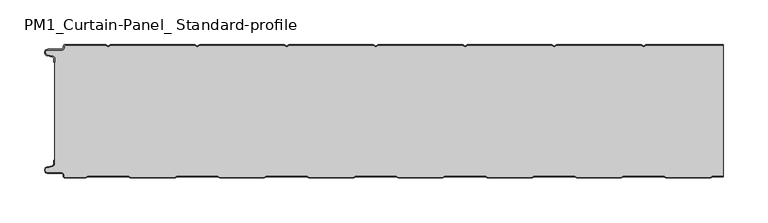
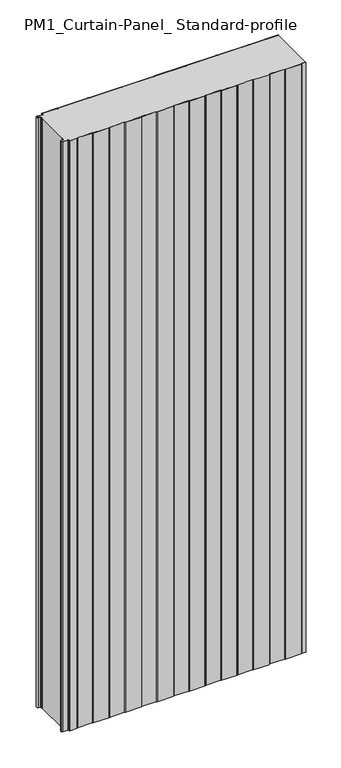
"""IFC4 building model written with IfcOpenShell, lengths in millimetres: plate geometry, PM1_Curtain-Panel_ Standard-profile : ACH_PM1_Acoustic-Sectioning-Panel_150M."""

from ifc_helpers import new_model, si_unit, point, frame_2d, origin, origin_with_axes, place, context, project, spatial, polyline, circle_curve, trimmed, segment, composite_curve, outline, extrude, source, transform, mapped, element, save


def pm1_curtain_panel_standard_profile_565afd56(model_context):
    return source(origin(), model_context, "Body", "SweptSolid", [
        extrude(outline(composite_curve([segment(trimmed(circle_curve(frame_2d((-377.0119739, -15.878557)), 2.0), [point((-375.0119739, -15.878557))], [point((-376.5620718, -13.9298169))], True, "CARTESIAN"), True, "CONTINUOUS"), segment(polyline([(-376.5620718, -13.9298169), (-382.7217978, -12.507732)]), True, "CONTINUOUS"), segment(trimmed(circle_curve(frame_2d((-381.9119739, -9.0)), 3.6), [point((-382.7217978, -12.507732))], [point((-381.9119739, -5.4))], False, "CARTESIAN"), True, "CONTINUOUS"), segment(polyline([(-381.9119739, -5.4), (-366.4119739, -5.4)]), True, "CONTINUOUS"), segment(trimmed(circle_curve(frame_2d((-366.4119739, -3.4)), 2.0), [point((-366.4119739, -5.4))], [point((-364.4119739, -3.4))], True, "CARTESIAN"), True, "CONTINUOUS"), segment(polyline([(-364.4119739, -3.4), (-364.4119739, -2.0)]), True, "CONTINUOUS"), segment(trimmed(circle_curve(frame_2d((-362.4119739, -2.0)), 2.0), [point((-364.4119739, -2.0))], [point((-362.4119739, 0.0))], False, "CARTESIAN"), True, "CONTINUOUS"), segment(polyline([(-362.4119739, 0.0), (-317.1119734, 0.0), (-314.4119739, -1.5588455), (-311.7119745, 0.0), (-217.1119734, 0.0), (-214.4119739, -1.5588455), (-211.7119745, 0.0), (-117.1119734, 0.0), (-114.4119739, -1.5588455), (-111.7119745, 0.0), (-17.1119734, 0.0), (-14.4119739, -1.5588455), (-11.7119745, 0.0), (82.8880266, 0.0), (85.5880261, -1.5588455), (88.2880255, 0.0), (182.8880266, 0.0), (185.5880261, -1.5588455), (188.2880255, 0.0), (282.8880266, 0.0), (285.5880261, -1.5588455), (288.2880255, 0.0), (375.0119739, 0.0), (375.0119739, -0.8), (288.5023849, -0.8), (285.5880261, -2.482606), (282.6736672, -0.8), (188.5023849, -0.8), (185.5880261, -2.482606), (182.6736672, -0.8), (88.5023849, -0.8), (85.5880261, -2.482606), (82.6736672, -0.8), (-11.4976151, -0.8), (-14.4119739, -2.482606), (-17.3263328, -0.8), (-111.4976151, -0.8), (-114.4119739, -2.482606), (-117.3263328, -0.8), (-211.4976151, -0.8), (-214.4119739, -2.482606), (-217.3263328, -0.8), (-311.4976151, -0.8), (-314.4119739, -2.482606), (-317.3263328, -0.8), (-362.4119739, -0.8)]), True, "CONTINUOUS"), segment(trimmed(circle_curve(frame_2d((-362.4119739, -2.0)), 1.2), [point((-362.4119739, -0.8))], [point((-363.6119739, -2.0))], True, "CARTESIAN"), True, "CONTINUOUS"), segment(polyline([(-363.6119739, -2.0), (-363.6119739, -3.4)]), True, "CONTINUOUS"), segment(trimmed(circle_curve(frame_2d((-366.4119739, -3.4)), 2.8), [point((-363.6119739, -3.4))], [point((-366.4119739, -6.2))], False, "CARTESIAN"), True, "CONTINUOUS"), segment(polyline([(-366.4119739, -6.2), (-381.9119739, -6.2)]), True, "CONTINUOUS"), segment(trimmed(circle_curve(frame_2d((-381.9119739, -9.0)), 2.8), [point((-381.9119739, -6.2))], [point((-382.541837, -11.7282362))], True, "CARTESIAN"), True, "CONTINUOUS"), segment(polyline([(-382.541837, -11.7282362), (-376.3821109, -13.150321)]), True, "CONTINUOUS"), segment(trimmed(circle_curve(frame_2d((-377.0119739, -15.878557)), 2.8), [point((-376.3821109, -13.150321))], [point((-374.2119739, -15.878557))], False, "CARTESIAN"), True, "CONTINUOUS"), segment(polyline([(-374.2119739, -15.878557), (-374.2119739, -20.0), (-375.0119739, -20.0), (-375.0119739, -15.878557)]), True, "CONTINUOUS")], self_intersect=False)), origin_with_axes(), (0.0, 0.0, 1.0), 1945.7507136),
        extrude(outline(composite_curve([segment(polyline([(-374.2119739, -134.121443), (-374.2119739, -15.8785573)]), True, "CONTINUOUS"), segment(trimmed(circle_curve(frame_2d((-377.0119739, -15.8785573)), 2.8), [point((-374.2119739, -15.8785573))], [point((-376.3821109, -13.1503212))], True, "CARTESIAN"), True, "CONTINUOUS"), segment(polyline([(-376.3821109, -13.1503212), (-382.541837, -11.7282362)]), True, "CONTINUOUS"), segment(trimmed(circle_curve(frame_2d((-381.911974, -9.0)), 2.8), [point((-382.541837, -11.7282362))], [point((-381.911974, -6.2))], False, "CARTESIAN"), True, "CONTINUOUS"), segment(polyline([(-381.911974, -6.2), (-366.411974, -6.2)]), True, "CONTINUOUS"), segment(trimmed(circle_curve(frame_2d((-366.411974, -3.4)), 2.8), [point((-366.411974, -6.2))], [point((-363.611974, -3.4))], True, "CARTESIAN"), True, "CONTINUOUS"), segment(polyline([(-363.611974, -3.4), (-363.611974, -2.0)]), True, "CONTINUOUS"), segment(trimmed(circle_curve(frame_2d((-362.411974, -2.0)), 1.2), [point((-363.611974, -2.0))], [point((-362.411974, -0.8))], False, "CARTESIAN"), True, "CONTINUOUS"), segment(polyline([(-362.411974, -0.8), (-317.3263329, -0.8), (-314.411974, -2.482606), (-311.4976152, -0.8), (-217.3263329, -0.8), (-214.411974, -2.482606), (-211.4976152, -0.8), (-117.3263329, -0.8), (-114.411974, -2.482606), (-111.4976152, -0.8), (-17.3263329, -0.8), (-14.411974, -2.482606), (-11.4976152, -0.8), (82.6736671, -0.8), (85.588026, -2.482606), (88.5023848, -0.8), (182.6736671, -0.8), (185.588026, -2.482606), (188.5023848, -0.8), (282.6736671, -0.8), (285.588026, -2.482606), (288.5023848, -0.8), (375.0119739, -0.8), (375.0119739, -147.7), (362.9717445, -147.7), (360.3736669, -149.2), (310.7985382, -149.2), (308.2004606, -147.7), (262.9717445, -147.7), (260.3736669, -149.2), (210.7985382, -149.2), (208.2004606, -147.7), (162.9717445, -147.7), (160.3736669, -149.2), (110.7985382, -149.2), (108.2004606, -147.7), (62.9717445, -147.7), (60.3736669, -149.2), (10.7985382, -149.2), (8.2004606, -147.7), (-37.0282555, -147.7), (-39.6263331, -149.2), (-89.2014618, -149.2), (-91.7995394, -147.7), (-137.0282555, -147.7), (-139.6263331, -149.2), (-189.2014618, -149.2), (-191.7995394, -147.7), (-237.0282555, -147.7), (-239.6263331, -149.2), (-289.2014618, -149.2), (-291.7995394, -147.7), (-337.0282555, -147.7), (-339.6263331, -149.2), (-362.4119739, -149.2)]), True, "CONTINUOUS"), segment(trimmed(circle_curve(frame_2d((-362.4119739, -148.0)), 1.2), [point((-362.4119739, -149.2))], [point((-363.6119739, -148.0))], False, "CARTESIAN"), True, "CONTINUOUS"), segment(polyline([(-363.6119739, -148.0), (-363.6119739, -146.5999998)]), True, "CONTINUOUS"), segment(trimmed(circle_curve(frame_2d((-366.4119739, -146.5999998)), 2.8), [point((-363.6119739, -146.5999998))], [point((-366.4119739, -143.7999998))], True, "CARTESIAN"), True, "CONTINUOUS"), segment(polyline([(-366.4119739, -143.7999998), (-381.9119739, -143.7999998)]), True, "CONTINUOUS"), segment(trimmed(circle_curve(frame_2d((-381.9119739, -141.0)), 2.7999998), [point((-381.9119739, -143.7999998))], [point((-382.5418369, -138.271764))], False, "CARTESIAN"), True, "CONTINUOUS"), segment(polyline([(-382.5418369, -138.271764), (-376.3821109, -136.8496792)]), True, "CONTINUOUS"), segment(trimmed(circle_curve(frame_2d((-377.0119739, -134.121443)), 2.8), [point((-376.3821109, -136.8496792))], [point((-374.2119739, -134.121443))], True, "CARTESIAN"), True, "CONTINUOUS")], self_intersect=False)), origin_with_axes(), (0.0, 0.0, 1.0), 1945.7507136),
        extrude(outline(composite_curve([segment(trimmed(circle_curve(frame_2d((-362.4119739, -148.0)), 2.0), [point((-362.4119739, -150.0))], [point((-364.4119739, -148.0))], False, "CARTESIAN"), True, "CONTINUOUS"), segment(polyline([(-364.4119739, -148.0), (-364.4119739, -146.6)]), True, "CONTINUOUS"), segment(trimmed(circle_curve(frame_2d((-366.4119739, -146.6)), 2.0), [point((-364.4119739, -146.6))], [point((-366.4119739, -144.6))], True, "CARTESIAN"), True, "CONTINUOUS"), segment(polyline([(-366.4119739, -144.6), (-381.9119739, -144.6)]), True, "CONTINUOUS"), segment(trimmed(circle_curve(frame_2d((-381.9119739, -141.0)), 3.6), [point((-381.9119739, -144.6))], [point((-382.7217979, -137.4922678))], False, "CARTESIAN"), True, "CONTINUOUS"), segment(polyline([(-382.7217979, -137.4922678), (-376.5620718, -136.070183)]), True, "CONTINUOUS"), segment(trimmed(circle_curve(frame_2d((-377.0119739, -134.121443)), 2.0), [point((-376.5620718, -136.070183))], [point((-375.0119739, -134.121443))], True, "CARTESIAN"), True, "CONTINUOUS"), segment(polyline([(-375.0119739, -134.121443), (-375.0119739, -130.0), (-374.2119739, -130.0), (-374.2119739, -134.121443)]), True, "CONTINUOUS"), segment(trimmed(circle_curve(frame_2d((-377.0119739, -134.121443)), 2.8), [point((-374.2119739, -134.121443))], [point((-376.3821109, -136.8496792))], False, "CARTESIAN"), True, "CONTINUOUS"), segment(polyline([(-376.3821109, -136.8496792), (-382.5418369, -138.271764)]), True, "CONTINUOUS"), segment(trimmed(circle_curve(frame_2d((-381.9119739, -141.0)), 2.8), [point((-382.5418369, -138.271764))], [point((-381.9119739, -143.8))], True, "CARTESIAN"), True, "CONTINUOUS"), segment(polyline([(-381.9119739, -143.8), (-366.4119739, -143.8)]), True, "CONTINUOUS"), segment(trimmed(circle_curve(frame_2d((-366.4119739, -146.6)), 2.8), [point((-366.4119739, -143.8))], [point((-363.6119739, -146.6))], False, "CARTESIAN"), True, "CONTINUOUS"), segment(polyline([(-363.6119739, -146.6), (-363.6119739, -148.0)]), True, "CONTINUOUS"), segment(trimmed(circle_curve(frame_2d((-362.4119739, -148.0)), 1.2), [point((-363.6119739, -148.0))], [point((-362.4119739, -149.2))], True, "CARTESIAN"), True, "CONTINUOUS"), segment(polyline([(-362.4119739, -149.2), (-339.6263331, -149.2), (-337.0282555, -147.7), (-291.7995394, -147.7), (-289.2014618, -149.2), (-239.6263331, -149.2), (-237.0282555, -147.7), (-191.7995394, -147.7), (-189.2014618, -149.2), (-139.6263331, -149.2), (-137.0282555, -147.7), (-91.7995394, -147.7), (-89.2014618, -149.2), (-39.6263331, -149.2), (-37.0282555, -147.7), (8.2004606, -147.7), (10.7985382, -149.2), (60.3736669, -149.2), (62.9717445, -147.7), (108.2004606, -147.7), (110.7985382, -149.2), (160.3736669, -149.2), (162.9717445, -147.7), (208.2004606, -147.7), (210.7985382, -149.2), (260.3736669, -149.2), (262.9717445, -147.7), (308.2004606, -147.7), (310.7985382, -149.2), (360.3736669, -149.2), (362.9717445, -147.7), (375.0119739, -147.7), (375.0119739, -148.5), (363.1861037, -148.5), (360.5880261, -150.0), (310.584179, -150.0), (307.9861014, -148.5), (263.1861037, -148.5), (260.5880261, -150.0), (210.584179, -150.0), (207.9861014, -148.5), (163.1861037, -148.5), (160.5880261, -150.0), (110.584179, -150.0), (107.9861014, -148.5), (63.1861037, -148.5), (60.5880261, -150.0), (10.584179, -150.0), (7.9861014, -148.5), (-36.8138963, -148.5), (-39.4119739, -150.0), (-89.415821, -150.0), (-92.0138986, -148.5), (-136.8138963, -148.5), (-139.4119739, -150.0), (-189.415821, -150.0), (-192.0138986, -148.5), (-236.8138963, -148.5), (-239.4119739, -150.0), (-289.415821, -150.0), (-292.0138986, -148.5), (-336.8138963, -148.5), (-339.4119739, -150.0), (-362.4119739, -150.0)]), True, "CONTINUOUS")], self_intersect=False)), origin_with_axes(), (0.0, 0.0, 1.0), 1945.7507136),
    ])


if __name__ == "__main__":
    model = new_model("IFC4")
    model_context = context("Model", 3, world=origin())
    ifc_project = project(units=[si_unit("LENGTHUNIT", "METRE", prefix="MILLI")], contexts=[model_context])
    site = spatial("IfcSite", under=ifc_project)
    building = spatial("IfcBuilding", under=site)
    placement = place(None, origin())
    pm1_curtain_panel_standard_profile_shape = pm1_curtain_panel_standard_profile_565afd56(model_context)
    element("IfcPlate", 1, ObjectType="PM1_Curtain-Panel_ Standard-profile : ACH_PM1_Acoustic-Sectioning-Panel_150M", at=placement, inside=building, context=model_context, shape_type="MappedRepresentation", body=[
        mapped(pm1_curtain_panel_standard_profile_shape, transform((0.0, 0.0, 0.0), x_axis=(1.0, 0.0, 0.0), y_axis=(0.0, 1.0, 0.0), z_axis=(0.0, 0.0, 1.0))),
    ])
    save(model, "model.ifc")
